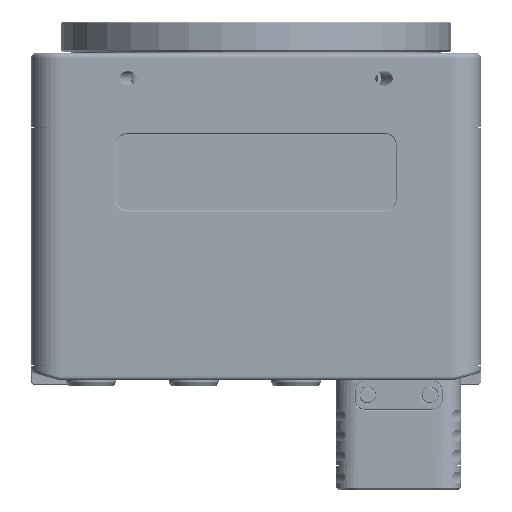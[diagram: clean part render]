
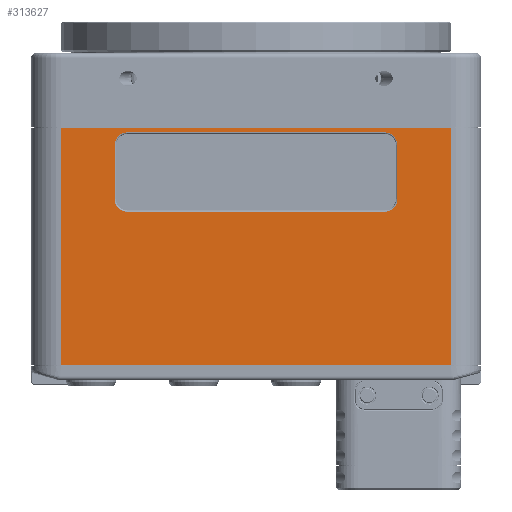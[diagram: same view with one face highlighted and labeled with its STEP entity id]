
A CAD part, front view. The second image highlights one B-rep face of the part: STEP entity #313627.
In plain terms, the highlighted planar face has unit normal (0, -1, 0).
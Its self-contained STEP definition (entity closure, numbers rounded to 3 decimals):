
#2222 = DIRECTION ( 'NONE',  ( 0., 0., 1. ) ) ;
#2717 = CARTESIAN_POINT ( 'NONE',  ( -39., -45., -54.5 ) ) ;
#3978 = CARTESIAN_POINT ( 'NONE',  ( -28.3, -45., -21.25 ) ) ;
#6565 = DIRECTION ( 'NONE',  ( 0., 0., -1. ) ) ;
#9234 = CARTESIAN_POINT ( 'NONE',  ( 28.3, -45., -21.25 ) ) ;
#10164 = LINE ( 'NONE', #224992, #277210 ) ;
#10357 = LINE ( 'NONE', #101971, #311700 ) ;
#11085 = CARTESIAN_POINT ( 'NONE',  ( -25.75, -45., -7.9 ) ) ;
#11699 = VERTEX_POINT ( 'NONE', #191446 ) ;
#15006 = ORIENTED_EDGE ( 'NONE', *, *, #217876, .T. ) ;
#17131 = DIRECTION ( 'NONE',  ( 0., 0., -1. ) ) ;
#18194 = VERTEX_POINT ( 'NONE', #2717 ) ;
#18551 = DIRECTION ( 'NONE',  ( 1., 0., 0. ) ) ;
#20452 = DIRECTION ( 'NONE',  ( 0., 0., 1. ) ) ;
#25073 = CARTESIAN_POINT ( 'NONE',  ( 28.3, -45., -10.45 ) ) ;
#25436 = EDGE_CURVE ( 'NONE', #11699, #146741, #26111, .T. ) ;
#26111 = CIRCLE ( 'NONE', #92750, 2.55 ) ;
#31313 = AXIS2_PLACEMENT_3D ( 'NONE', #228116, #103464, #226067 ) ;
#32013 = VERTEX_POINT ( 'NONE', #248252 ) ;
#33173 = CARTESIAN_POINT ( 'NONE',  ( 25.75, -45., -10.45 ) ) ;
#33652 = CARTESIAN_POINT ( 'NONE',  ( 25.75, -45., -21.25 ) ) ;
#35376 = LINE ( 'NONE', #312775, #92559 ) ;
#38464 = ORIENTED_EDGE ( 'NONE', *, *, #46999, .T. ) ;
#40966 = EDGE_LOOP ( 'NONE', ( #110214, #227037, #215342, #70420 ) ) ;
#46114 = LINE ( 'NONE', #299245, #179811 ) ;
#46670 = CARTESIAN_POINT ( 'NONE',  ( -28.3, -45., -10.45 ) ) ;
#46999 = EDGE_CURVE ( 'NONE', #146741, #257275, #95471, .T. ) ;
#49276 = CARTESIAN_POINT ( 'NONE',  ( 39., -45., -184.779 ) ) ;
#50751 = VERTEX_POINT ( 'NONE', #11085 ) ;
#59260 = DIRECTION ( 'NONE',  ( 0., 1., 0. ) ) ;
#61240 = VECTOR ( 'NONE', #124207, 1000. ) ;
#61442 = DIRECTION ( 'NONE',  ( 0., 0., -1. ) ) ;
#63758 = ORIENTED_EDGE ( 'NONE', *, *, #25436, .T. ) ;
#70420 = ORIENTED_EDGE ( 'NONE', *, *, #135348, .F. ) ;
#92559 = VECTOR ( 'NONE', #18551, 1000. ) ;
#92750 = AXIS2_PLACEMENT_3D ( 'NONE', #33652, #59260, #207461 ) ;
#92762 = CARTESIAN_POINT ( 'NONE',  ( -25.75, -45., -10.45 ) ) ;
#95471 = LINE ( 'NONE', #197801, #61240 ) ;
#97539 = EDGE_CURVE ( 'NONE', #113856, #32013, #181669, .T. ) ;
#101971 = CARTESIAN_POINT ( 'NONE',  ( 25.75, -45., -7.9 ) ) ;
#102808 = LINE ( 'NONE', #9234, #282008 ) ;
#103464 = DIRECTION ( 'NONE',  ( 0., 1., 0. ) ) ;
#105271 = DIRECTION ( 'NONE',  ( -1., 0., 0. ) ) ;
#109474 = VERTEX_POINT ( 'NONE', #145649 ) ;
#110214 = ORIENTED_EDGE ( 'NONE', *, *, #228702, .F. ) ;
#113856 = VERTEX_POINT ( 'NONE', #217523 ) ;
#114323 = VERTEX_POINT ( 'NONE', #25073 ) ;
#117657 = ORIENTED_EDGE ( 'NONE', *, *, #189476, .T. ) ;
#122167 = FACE_BOUND ( 'NONE', #282524, .T. ) ;
#124207 = DIRECTION ( 'NONE',  ( -1., 0., 0. ) ) ;
#131817 = ORIENTED_EDGE ( 'NONE', *, *, #143343, .T. ) ;
#133593 = CARTESIAN_POINT ( 'NONE',  ( 25.75, -45., -23.8 ) ) ;
#134575 = AXIS2_PLACEMENT_3D ( 'NONE', #251985, #202997, #177401 ) ;
#135348 = EDGE_CURVE ( 'NONE', #208385, #32013, #35376, .T. ) ;
#143343 = EDGE_CURVE ( 'NONE', #158591, #50751, #248100, .T. ) ;
#144188 = AXIS2_PLACEMENT_3D ( 'NONE', #33173, #228282, #6565 ) ;
#145649 = CARTESIAN_POINT ( 'NONE',  ( 25.75, -45., -7.9 ) ) ;
#146741 = VERTEX_POINT ( 'NONE', #133593 ) ;
#154953 = PLANE ( 'NONE',  #134575 ) ;
#158591 = VERTEX_POINT ( 'NONE', #46670 ) ;
#168076 = FACE_OUTER_BOUND ( 'NONE', #40966, .T. ) ;
#177401 = DIRECTION ( 'NONE',  ( 0., 0., -1. ) ) ;
#179811 = VECTOR ( 'NONE', #105271, 1000. ) ;
#181669 = LINE ( 'NONE', #49276, #212279 ) ;
#189476 = EDGE_CURVE ( 'NONE', #114323, #11699, #102808, .T. ) ;
#189827 = DIRECTION ( 'NONE',  ( 0., 1., 0. ) ) ;
#191446 = CARTESIAN_POINT ( 'NONE',  ( 28.3, -45., -21.25 ) ) ;
#197801 = CARTESIAN_POINT ( 'NONE',  ( -25.75, -45., -23.8 ) ) ;
#198563 = DIRECTION ( 'NONE',  ( 0., 0., 1. ) ) ;
#202997 = DIRECTION ( 'NONE',  ( 0., -1., 0. ) ) ;
#205439 = VERTEX_POINT ( 'NONE', #3978 ) ;
#207289 = EDGE_CURVE ( 'NONE', #50751, #109474, #10357, .T. ) ;
#207461 = DIRECTION ( 'NONE',  ( 0., 0., -1. ) ) ;
#208385 = VERTEX_POINT ( 'NONE', #257484 ) ;
#210477 = EDGE_CURVE ( 'NONE', #205439, #158591, #311593, .T. ) ;
#212279 = VECTOR ( 'NONE', #198563, 1000. ) ;
#215342 = ORIENTED_EDGE ( 'NONE', *, *, #97539, .T. ) ;
#217523 = CARTESIAN_POINT ( 'NONE',  ( 39., -45., -54.5 ) ) ;
#217876 = EDGE_CURVE ( 'NONE', #109474, #114323, #293748, .T. ) ;
#224992 = CARTESIAN_POINT ( 'NONE',  ( -39., -45., -184.779 ) ) ;
#226067 = DIRECTION ( 'NONE',  ( 0., 0., -1. ) ) ;
#227037 = ORIENTED_EDGE ( 'NONE', *, *, #241740, .F. ) ;
#228116 = CARTESIAN_POINT ( 'NONE',  ( -25.75, -45., -21.25 ) ) ;
#228282 = DIRECTION ( 'NONE',  ( 0., 1., 0. ) ) ;
#228702 = EDGE_CURVE ( 'NONE', #18194, #208385, #10164, .T. ) ;
#229211 = ORIENTED_EDGE ( 'NONE', *, *, #210477, .T. ) ;
#238294 = AXIS2_PLACEMENT_3D ( 'NONE', #92762, #189827, #17131 ) ;
#240426 = EDGE_CURVE ( 'NONE', #257275, #205439, #302110, .T. ) ;
#241740 = EDGE_CURVE ( 'NONE', #113856, #18194, #46114, .T. ) ;
#246726 = VECTOR ( 'NONE', #20452, 1000. ) ;
#248100 = CIRCLE ( 'NONE', #238294, 2.55 ) ;
#248252 = CARTESIAN_POINT ( 'NONE',  ( 39., -45., -7. ) ) ;
#251985 = CARTESIAN_POINT ( 'NONE',  ( -400000., -45., -184.779 ) ) ;
#252847 = ORIENTED_EDGE ( 'NONE', *, *, #207289, .T. ) ;
#257275 = VERTEX_POINT ( 'NONE', #288159 ) ;
#257484 = CARTESIAN_POINT ( 'NONE',  ( -39., -45., -7. ) ) ;
#271460 = DIRECTION ( 'NONE',  ( 1., 0., 0. ) ) ;
#277210 = VECTOR ( 'NONE', #2222, 1000. ) ;
#279137 = ORIENTED_EDGE ( 'NONE', *, *, #240426, .T. ) ;
#282008 = VECTOR ( 'NONE', #61442, 1000. ) ;
#282524 = EDGE_LOOP ( 'NONE', ( #252847, #15006, #117657, #63758, #38464, #279137, #229211, #131817 ) ) ;
#288159 = CARTESIAN_POINT ( 'NONE',  ( -25.75, -45., -23.8 ) ) ;
#293748 = CIRCLE ( 'NONE', #144188, 2.55 ) ;
#299245 = CARTESIAN_POINT ( 'NONE',  ( 39., -45., -54.5 ) ) ;
#302110 = CIRCLE ( 'NONE', #31313, 2.55 ) ;
#311593 = LINE ( 'NONE', #313603, #246726 ) ;
#311700 = VECTOR ( 'NONE', #271460, 1000. ) ;
#312775 = CARTESIAN_POINT ( 'NONE',  ( -39., -45., -7. ) ) ;
#313603 = CARTESIAN_POINT ( 'NONE',  ( -28.3, -45., -10.45 ) ) ;
#313627 = ADVANCED_FACE ( 'NONE', ( #122167, #168076 ), #154953, .T. ) ;
